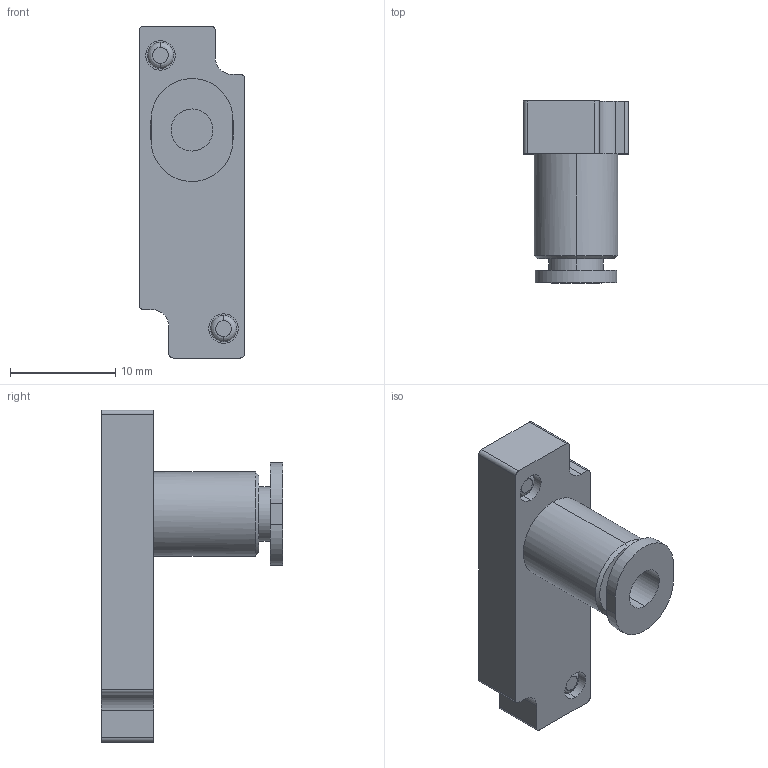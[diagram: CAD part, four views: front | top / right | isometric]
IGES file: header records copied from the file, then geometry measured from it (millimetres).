
Start section: ------------------------------------------------------------------------
Global section: file name: D:\ICADMX\tmp\trans3d_spg\CVICAD02.10028.F10_Port_VJ5A_8575.igs; native system: spGate; preprocessor: ver12.6.6; author: Unknown; organization: Unknown; date: 200901.142425; units: millimetre
Bounding box: 10 x 17.3 x 31.6 mm (x, y, z)
Volume: 1911.4 mm3; surface area: 1530.1 mm2
Topology: 1 solids, 1 shells, 46 faces, 106 edges, 70 vertices
Faces by surface type: bspline 46
